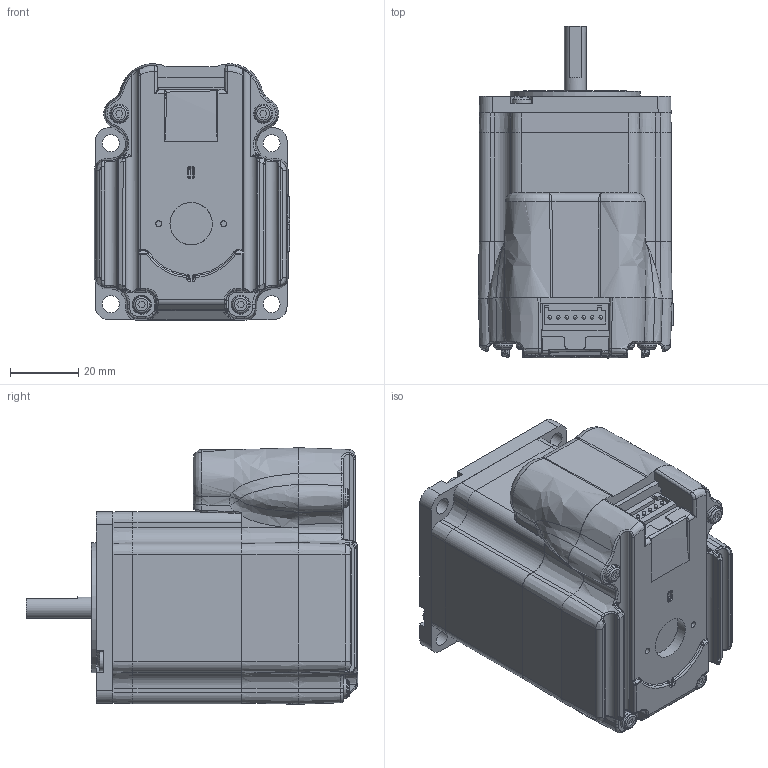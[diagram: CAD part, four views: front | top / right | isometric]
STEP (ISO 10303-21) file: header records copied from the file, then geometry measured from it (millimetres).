
FILE_DESCRIPTION(('MDrive23Plus, Double Stack, P1 (IO PWR, P) and P2 (RD or RL 10-Pin)'),'1');
FILE_NAME('MDrive23Plus, Double Stack, P1 (IO PWR, P) and P2 (RD or RL 10-Pin).stp','2009-05-11T15:48:36',('P. Bordua'),('Intelligent Motion Systems, Inc.'),'Spatial Interop R18','Kubotek KeyCreator V8.0.1 (11344)','KC');
FILE_SCHEMA(('automotive_design'));
Length unit declared in the file: inch
Products named in the file (2): MDrive23Plus,  Double Stack, P1 (IO PWR, P)  and  P2 (RD or RL 10-Pin)[3]
Bounding box: 57.34 x 97.31 x 75.2 mm (x, y, z)
Volume: 246545.7 mm3; surface area: 35078.2 mm2
Topology: 2 solids, 3 shells, 818 faces, 2095 edges, 1304 vertices
Faces by surface type: plane 373, bspline 231, cylinder 124, torus 38, cone 27, sphere 25
Full cylindrical faces by diameter (mm): 1.041 x7, 3.175 x2, 5 x4, 5.563 x4, 5.588 x4, 6.35 x1, 8.001 x1, 10.16 x1, 12.446 x1, 38.1 x1
Entity records: 66478 total; most frequent: CARTESIAN_POINT 23612, PRESENTATION_STYLE_ASSIGNMENT 4884, COLOUR_RGB 4884, STYLED_ITEM 4064, ORIENTED_EDGE 4008, CURVE_STYLE 2824, DRAUGHTING_PRE_DEFINED_CURVE_FONT 2824, DIRECTION 2411
